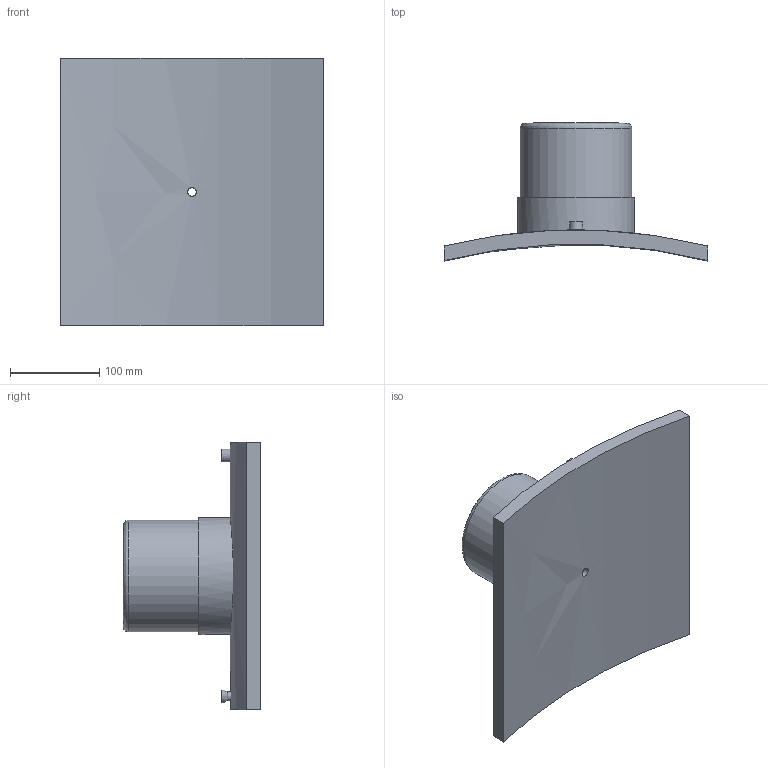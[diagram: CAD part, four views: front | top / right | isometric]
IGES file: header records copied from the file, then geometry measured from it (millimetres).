
Global section: file name: 4958031200125T.ipt; native system: Autodesk Inventor 2019; preprocessor: unknown; author: KIM; date: 20210225.095005; units: millimetre
Bounding box: 295 x 154.41 x 300 mm (x, y, z)
Volume: 2015626 mm3; surface area: 290319.9 mm2
Topology: 2 solids, 2 shells, 29 faces, 54 edges, 38 vertices
Faces by surface type: plane 13, revolution 7, cylinder 7, cone 2
Full cylindrical faces by diameter (mm): 4 x2, 16 x1, 125 x1, 131.25 x1
